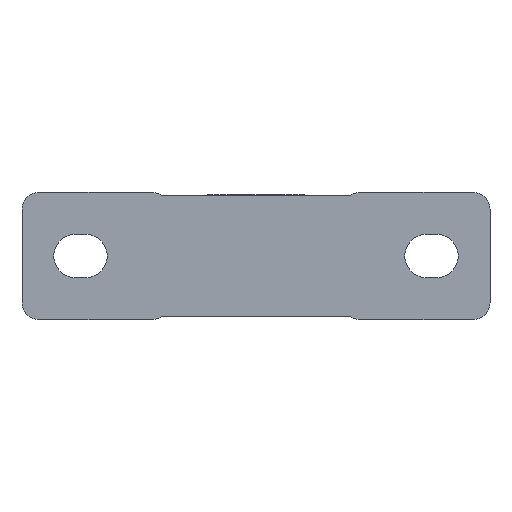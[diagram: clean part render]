
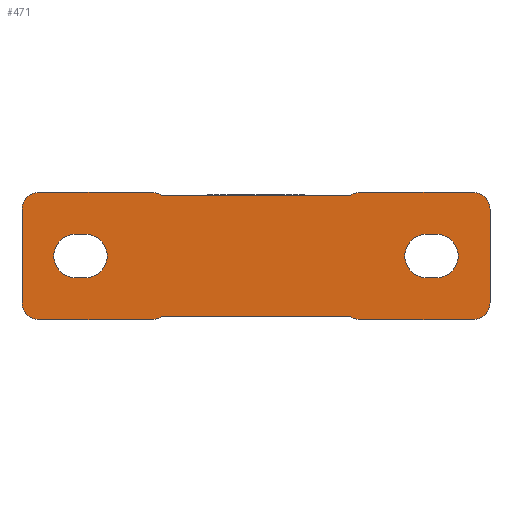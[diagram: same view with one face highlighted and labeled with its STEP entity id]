
A CAD part, front view. The second image highlights one B-rep face of the part: STEP entity #471.
In plain terms, the highlighted planar face has unit normal (0, -1, 0).
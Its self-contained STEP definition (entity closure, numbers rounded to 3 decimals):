
#256=CARTESIAN_POINT('',(0.,-36.5,0.));
#257=DIRECTION('',(0.0,1.0,0.0));
#258=DIRECTION('',(0.0,0.0,1.0));
#259=AXIS2_PLACEMENT_3D('',#256,#257,#258);
#260=PLANE('',#259);
#261=CARTESIAN_POINT('',(-28.,-36.5,-18.));
#262=VERTEX_POINT('',#261);
#263=CARTESIAN_POINT('',(-31.,-36.5,-19.));
#264=VERTEX_POINT('',#263);
#265=CARTESIAN_POINT('',(-31.,-36.5,-14.));
#266=DIRECTION('',(0.0,1.0,0.0));
#267=DIRECTION('',(0.6,0.0,-0.8));
#268=AXIS2_PLACEMENT_3D('',#265,#266,#267);
#269=CIRCLE('',#268,5.0);
#270=EDGE_CURVE('',#262,#264,#269,.T.);
#271=ORIENTED_EDGE('',*,*,#270,.F.);
#272=CARTESIAN_POINT('',(28.,-36.5,-18.));
#273=VERTEX_POINT('',#272);
#274=CARTESIAN_POINT('',(28.,-36.5,-18.));
#275=DIRECTION('',(-1.0,0.0,0.0));
#276=VECTOR('',#275,56.);
#277=LINE('',#274,#276);
#278=EDGE_CURVE('',#273,#262,#277,.T.);
#279=ORIENTED_EDGE('',*,*,#278,.F.);
#280=CARTESIAN_POINT('',(31.,-36.5,-19.));
#281=VERTEX_POINT('',#280);
#282=CARTESIAN_POINT('',(31.,-36.5,-14.));
#283=DIRECTION('',(0.0,1.0,0.0));
#284=DIRECTION('',(-0.6,0.0,-0.8));
#285=AXIS2_PLACEMENT_3D('',#282,#283,#284);
#286=CIRCLE('',#285,5.);
#287=EDGE_CURVE('',#281,#273,#286,.T.);
#288=ORIENTED_EDGE('',*,*,#287,.F.);
#289=CARTESIAN_POINT('',(65.,-36.5,-19.0));
#290=VERTEX_POINT('',#289);
#291=CARTESIAN_POINT('',(65.,-36.5,-19.));
#292=DIRECTION('',(-1.0,0.0,0.0));
#293=VECTOR('',#292,34.);
#294=LINE('',#291,#293);
#295=EDGE_CURVE('',#290,#281,#294,.T.);
#296=ORIENTED_EDGE('',*,*,#295,.F.);
#297=CARTESIAN_POINT('',(70.0,-36.5,-14.));
#298=VERTEX_POINT('',#297);
#299=CARTESIAN_POINT('',(65.,-36.5,-14.));
#300=DIRECTION('',(0.0,1.0,0.0));
#301=DIRECTION('',(0.707,0.0,-0.707));
#302=AXIS2_PLACEMENT_3D('',#299,#300,#301);
#303=CIRCLE('',#302,5.);
#304=EDGE_CURVE('',#298,#290,#303,.T.);
#305=ORIENTED_EDGE('',*,*,#304,.F.);
#306=CARTESIAN_POINT('',(70.0,-36.5,14.));
#307=VERTEX_POINT('',#306);
#308=CARTESIAN_POINT('',(70.0,-36.5,14.));
#309=DIRECTION('',(0.0,0.0,-1.0));
#310=VECTOR('',#309,28.);
#311=LINE('',#308,#310);
#312=EDGE_CURVE('',#307,#298,#311,.T.);
#313=ORIENTED_EDGE('',*,*,#312,.F.);
#314=CARTESIAN_POINT('',(65.0,-36.5,19.0));
#315=VERTEX_POINT('',#314);
#316=CARTESIAN_POINT('',(65.0,-36.5,14.));
#317=DIRECTION('',(0.0,1.0,0.0));
#318=DIRECTION('',(0.707,0.0,0.707));
#319=AXIS2_PLACEMENT_3D('',#316,#317,#318);
#320=CIRCLE('',#319,5.);
#321=EDGE_CURVE('',#315,#307,#320,.T.);
#322=ORIENTED_EDGE('',*,*,#321,.F.);
#323=CARTESIAN_POINT('',(31.,-36.5,19.0));
#324=VERTEX_POINT('',#323);
#325=CARTESIAN_POINT('',(31.,-36.5,19.0));
#326=DIRECTION('',(1.0,0.0,0.0));
#327=VECTOR('',#326,34.);
#328=LINE('',#325,#327);
#329=EDGE_CURVE('',#324,#315,#328,.T.);
#330=ORIENTED_EDGE('',*,*,#329,.F.);
#331=CARTESIAN_POINT('',(28.,-36.5,18.));
#332=VERTEX_POINT('',#331);
#333=CARTESIAN_POINT('',(31.,-36.5,14.0));
#334=DIRECTION('',(0.0,1.0,0.0));
#335=DIRECTION('',(-0.6,0.0,0.8));
#336=AXIS2_PLACEMENT_3D('',#333,#334,#335);
#337=CIRCLE('',#336,5.);
#338=EDGE_CURVE('',#332,#324,#337,.T.);
#339=ORIENTED_EDGE('',*,*,#338,.F.);
#340=CARTESIAN_POINT('',(-28.0,-36.5,18.));
#341=VERTEX_POINT('',#340);
#342=CARTESIAN_POINT('',(-28.,-36.5,18.));
#343=DIRECTION('',(1.0,0.0,0.0));
#344=VECTOR('',#343,56.);
#345=LINE('',#342,#344);
#346=EDGE_CURVE('',#341,#332,#345,.T.);
#347=ORIENTED_EDGE('',*,*,#346,.F.);
#348=CARTESIAN_POINT('',(-31.,-36.5,19.0));
#349=VERTEX_POINT('',#348);
#350=CARTESIAN_POINT('',(-31.,-36.5,14.));
#351=DIRECTION('',(0.0,1.0,0.0));
#352=DIRECTION('',(0.6,0.0,0.8));
#353=AXIS2_PLACEMENT_3D('',#350,#351,#352);
#354=CIRCLE('',#353,5.0);
#355=EDGE_CURVE('',#349,#341,#354,.T.);
#356=ORIENTED_EDGE('',*,*,#355,.F.);
#357=CARTESIAN_POINT('',(-65.0,-36.5,19.0));
#358=VERTEX_POINT('',#357);
#359=CARTESIAN_POINT('',(-65.0,-36.5,19.));
#360=DIRECTION('',(1.0,0.0,0.0));
#361=VECTOR('',#360,34.0);
#362=LINE('',#359,#361);
#363=EDGE_CURVE('',#358,#349,#362,.T.);
#364=ORIENTED_EDGE('',*,*,#363,.F.);
#365=CARTESIAN_POINT('',(-70.,-36.5,14.));
#366=VERTEX_POINT('',#365);
#367=CARTESIAN_POINT('',(-65.0,-36.5,14.));
#368=DIRECTION('',(0.0,1.0,0.0));
#369=DIRECTION('',(-0.707,0.0,0.707));
#370=AXIS2_PLACEMENT_3D('',#367,#368,#369);
#371=CIRCLE('',#370,5.);
#372=EDGE_CURVE('',#366,#358,#371,.T.);
#373=ORIENTED_EDGE('',*,*,#372,.F.);
#374=CARTESIAN_POINT('',(-70.,-36.5,-14.));
#375=VERTEX_POINT('',#374);
#376=CARTESIAN_POINT('',(-70.0,-36.5,-14.));
#377=DIRECTION('',(0.0,0.0,1.0));
#378=VECTOR('',#377,28.);
#379=LINE('',#376,#378);
#380=EDGE_CURVE('',#375,#366,#379,.T.);
#381=ORIENTED_EDGE('',*,*,#380,.F.);
#382=CARTESIAN_POINT('',(-65.0,-36.5,-19.));
#383=VERTEX_POINT('',#382);
#384=CARTESIAN_POINT('',(-65.0,-36.5,-14.));
#385=DIRECTION('',(0.0,1.0,0.0));
#386=DIRECTION('',(-0.707,0.0,-0.707));
#387=AXIS2_PLACEMENT_3D('',#384,#385,#386);
#388=CIRCLE('',#387,5.);
#389=EDGE_CURVE('',#383,#375,#388,.T.);
#390=ORIENTED_EDGE('',*,*,#389,.F.);
#391=CARTESIAN_POINT('',(-31.,-36.5,-19.));
#392=DIRECTION('',(-1.0,0.0,0.0));
#393=VECTOR('',#392,34.);
#394=LINE('',#391,#393);
#395=EDGE_CURVE('',#264,#383,#394,.T.);
#396=ORIENTED_EDGE('',*,*,#395,.F.);
#397=EDGE_LOOP('',(#271,#279,#288,#296,#305,#313,#322,#330,#339,#347,#356,#364,#373,#381,#390,#396));
#398=FACE_OUTER_BOUND('',#397,.T.);
#399=CARTESIAN_POINT('',(-51.0,-36.5,-6.5));
#400=VERTEX_POINT('',#399);
#401=CARTESIAN_POINT('',(-51.0,-36.5,6.5));
#402=VERTEX_POINT('',#401);
#403=CARTESIAN_POINT('',(-51.0,-36.5,0.0));
#404=DIRECTION('',(0.0,-1.0,0.0));
#405=DIRECTION('',(0.0,0.0,-1.0));
#406=AXIS2_PLACEMENT_3D('',#403,#404,#405);
#407=CIRCLE('',#406,6.5);
#408=EDGE_CURVE('',#400,#402,#407,.T.);
#409=ORIENTED_EDGE('',*,*,#408,.F.);
#410=CARTESIAN_POINT('',(-54.,-36.5,-6.5));
#411=VERTEX_POINT('',#410);
#412=CARTESIAN_POINT('',(-54.,-36.5,-6.5));
#413=DIRECTION('',(1.0,0.0,0.0));
#414=VECTOR('',#413,3.);
#415=LINE('',#412,#414);
#416=EDGE_CURVE('',#411,#400,#415,.T.);
#417=ORIENTED_EDGE('',*,*,#416,.F.);
#418=CARTESIAN_POINT('',(-54.,-36.5,6.5));
#419=VERTEX_POINT('',#418);
#420=CARTESIAN_POINT('',(-54.,-36.5,0.0));
#421=DIRECTION('',(0.0,-1.0,0.0));
#422=DIRECTION('',(0.0,0.0,1.0));
#423=AXIS2_PLACEMENT_3D('',#420,#421,#422);
#424=CIRCLE('',#423,6.5);
#425=EDGE_CURVE('',#419,#411,#424,.T.);
#426=ORIENTED_EDGE('',*,*,#425,.F.);
#427=CARTESIAN_POINT('',(-51.0,-36.5,6.5));
#428=DIRECTION('',(-1.0,0.0,0.0));
#429=VECTOR('',#428,3.0);
#430=LINE('',#427,#429);
#431=EDGE_CURVE('',#402,#419,#430,.T.);
#432=ORIENTED_EDGE('',*,*,#431,.F.);
#433=EDGE_LOOP('',(#409,#417,#426,#432));
#434=FACE_BOUND('',#433,.T.);
#435=CARTESIAN_POINT('',(54.,-36.5,-6.5));
#436=VERTEX_POINT('',#435);
#437=CARTESIAN_POINT('',(54.,-36.5,6.5));
#438=VERTEX_POINT('',#437);
#439=CARTESIAN_POINT('',(54.,-36.5,0.0));
#440=DIRECTION('',(0.0,-1.0,0.0));
#441=DIRECTION('',(0.0,0.0,-1.0));
#442=AXIS2_PLACEMENT_3D('',#439,#440,#441);
#443=CIRCLE('',#442,6.5);
#444=EDGE_CURVE('',#436,#438,#443,.T.);
#445=ORIENTED_EDGE('',*,*,#444,.F.);
#446=CARTESIAN_POINT('',(51.0,-36.5,-6.5));
#447=VERTEX_POINT('',#446);
#448=CARTESIAN_POINT('',(51.0,-36.5,-6.5));
#449=DIRECTION('',(1.0,0.0,0.0));
#450=VECTOR('',#449,3.);
#451=LINE('',#448,#450);
#452=EDGE_CURVE('',#447,#436,#451,.T.);
#453=ORIENTED_EDGE('',*,*,#452,.F.);
#454=CARTESIAN_POINT('',(51.0,-36.5,6.5));
#455=VERTEX_POINT('',#454);
#456=CARTESIAN_POINT('',(51.0,-36.5,0.0));
#457=DIRECTION('',(0.0,-1.0,0.0));
#458=DIRECTION('',(0.0,0.0,1.0));
#459=AXIS2_PLACEMENT_3D('',#456,#457,#458);
#460=CIRCLE('',#459,6.5);
#461=EDGE_CURVE('',#455,#447,#460,.T.);
#462=ORIENTED_EDGE('',*,*,#461,.F.);
#463=CARTESIAN_POINT('',(54.,-36.5,6.5));
#464=DIRECTION('',(-1.0,0.0,0.0));
#465=VECTOR('',#464,3.0);
#466=LINE('',#463,#465);
#467=EDGE_CURVE('',#438,#455,#466,.T.);
#468=ORIENTED_EDGE('',*,*,#467,.F.);
#469=EDGE_LOOP('',(#445,#453,#462,#468));
#470=FACE_BOUND('',#469,.T.);
#471=ADVANCED_FACE('',(#398,#434,#470),#260,.F.);
